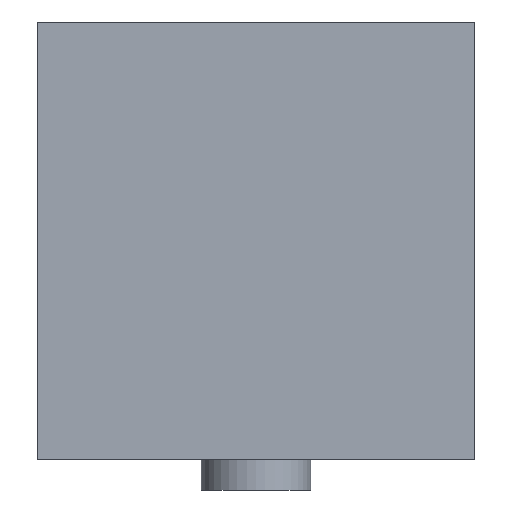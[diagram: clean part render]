
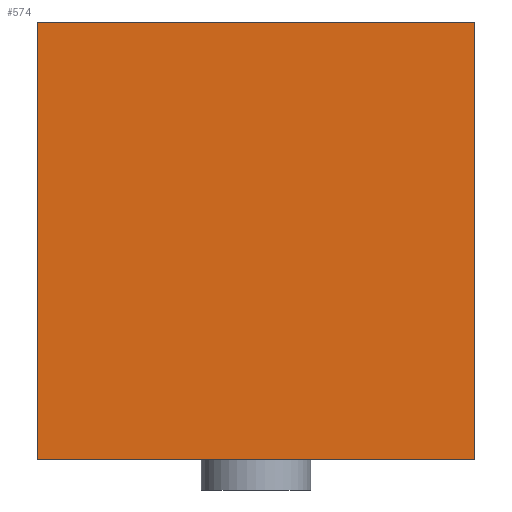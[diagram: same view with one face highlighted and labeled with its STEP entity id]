
A CAD part, front view. The second image highlights one B-rep face of the part: STEP entity #574.
In plain terms, the highlighted planar face has unit normal (0, -1, 0).
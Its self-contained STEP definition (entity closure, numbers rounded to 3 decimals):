
#39=LINE('',#950,#75);
#47=LINE('',#964,#83);
#48=LINE('',#967,#84);
#49=LINE('',#968,#85);
#75=VECTOR('',#794,10.);
#83=VECTOR('',#808,10.);
#84=VECTOR('',#811,10.);
#85=VECTOR('',#812,10.);
#107=PLANE('',#647);
#179=FACE_OUTER_BOUND('',#251,.T.);
#251=EDGE_LOOP('',(#512,#513,#514,#515));
#328=VERTEX_POINT('',#947);
#329=VERTEX_POINT('',#949);
#332=VERTEX_POINT('',#962);
#333=VERTEX_POINT('',#966);
#386=EDGE_CURVE('',#328,#329,#39,.T.);
#394=EDGE_CURVE('',#328,#332,#47,.T.);
#395=EDGE_CURVE('',#333,#332,#48,.T.);
#396=EDGE_CURVE('',#329,#333,#49,.T.);
#512=ORIENTED_EDGE('',*,*,#386,.F.);
#513=ORIENTED_EDGE('',*,*,#394,.T.);
#514=ORIENTED_EDGE('',*,*,#395,.F.);
#515=ORIENTED_EDGE('',*,*,#396,.F.);
#574=ADVANCED_FACE('',(#179),#107,.T.);
#647=AXIS2_PLACEMENT_3D('',#965,#809,#810);
#794=DIRECTION('',(-1.,0.,0.));
#808=DIRECTION('',(0.,0.,1.));
#809=DIRECTION('center_axis',(0.,-1.,0.));
#810=DIRECTION('ref_axis',(1.,0.,0.));
#811=DIRECTION('',(1.,0.,0.));
#812=DIRECTION('',(0.,0.,1.));
#947=CARTESIAN_POINT('',(250.,-75.,0.));
#949=CARTESIAN_POINT('',(-250.,-75.,0.));
#950=CARTESIAN_POINT('',(250.,-75.,0.));
#962=CARTESIAN_POINT('',(250.,-75.,500.));
#964=CARTESIAN_POINT('',(250.,-75.,0.));
#965=CARTESIAN_POINT('Origin',(-250.,-75.,0.));
#966=CARTESIAN_POINT('',(-250.,-75.,500.));
#967=CARTESIAN_POINT('',(250.,-75.,500.));
#968=CARTESIAN_POINT('',(-250.,-75.,0.));
